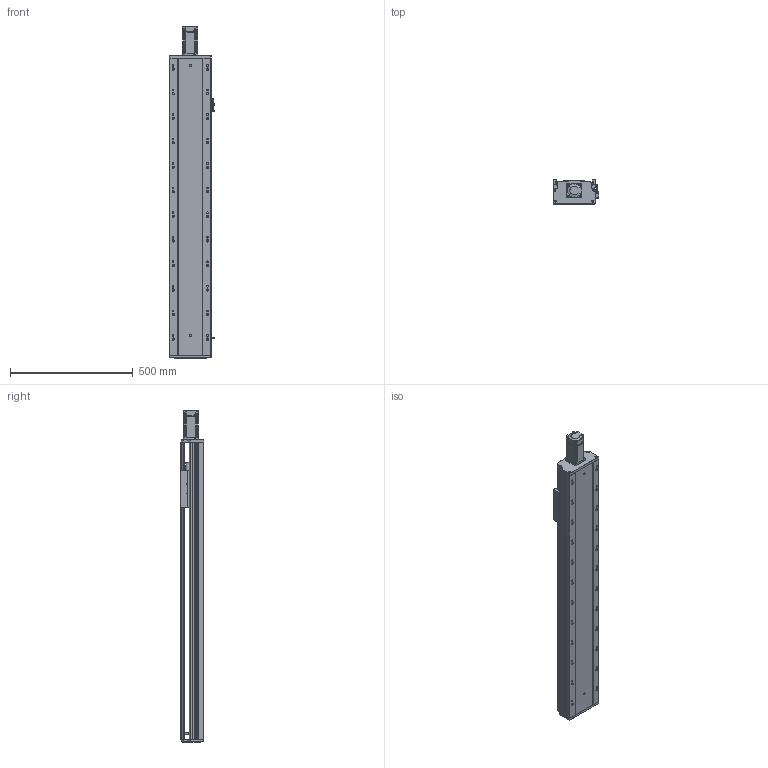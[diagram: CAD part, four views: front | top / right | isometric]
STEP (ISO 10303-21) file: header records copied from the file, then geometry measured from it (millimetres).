
FILE_DESCRIPTION (( 'STEP AP203' ), '1' );
FILE_NAME ('RY170-L2020-300-MK.SLDASM_900.step', '2021-02-20T03:51:10', ( '盈信电脑' ), ( '东莞市道滘镇水果街19号' ), 'SwSTEP 2.0', 'SolidWorks 2012', '' );
FILE_SCHEMA (( 'CONFIG_CONTROL_DESIGN' ));
Length unit declared in the file: millimetre
Products named in the file (12): RY170-L2020-300-MK.SLDASM_900; RY170ヶ醱裔啣; 滅袉蝶18-28; 滅袉蝶18-10; RY170外置感应片(200共用）; 覜茼ん672; 侂狟400W侜督萇儂; RY170綴裔啣; RY170臏賑輸20佪裝蹟譫; 15; RY170-300倰第裔啣-MK_900; RY170-300倰第菁釱-MK_900
Assembly tree (13 placements, depth 3):
  RY170-L2020-300-MK.SLDASM_900
    RY170-300倰第菁釱-MK_900
    RY170-300倰第裔啣-MK_900
    RY170臏賑輸20佪裝蹟譫
    侂狟400W侜督萇儂
      15
    RY170綴裔啣
    覜茼ん672  x3
    RY170外置感应片(200共用）
    RY170ヶ醱裔啣
    滅袉蝶18-28
    滅袉蝶18-10
Bounding box: 183.7 x 97 x 1352.5 mm (x, y, z)
Volume: 6272766.8 mm3; surface area: 2028653.8 mm2
Topology: 12 solids, 12 shells, 2236 faces, 6536 edges, 4222 vertices
Faces by surface type: plane 1166, cylinder 858, cone 183, bspline 29
Entity records: 72889 total; most frequent: CARTESIAN_POINT 16861, ORIENTED_EDGE 11844, DIRECTION 11033, EDGE_CURVE 5922, VERTEX_POINT 3902, LINE 3689, VECTOR 3689, AXIS2_PLACEMENT_3D 3672
